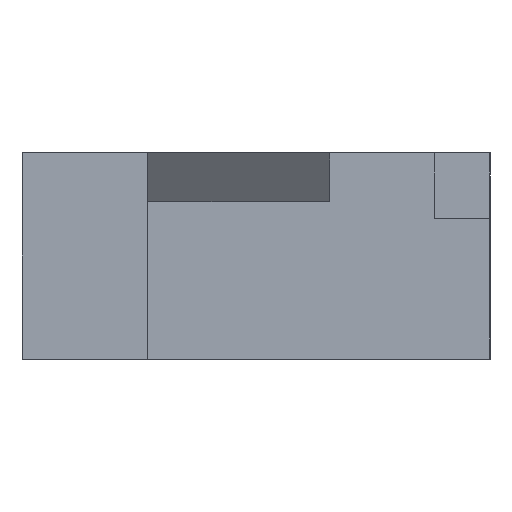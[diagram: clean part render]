
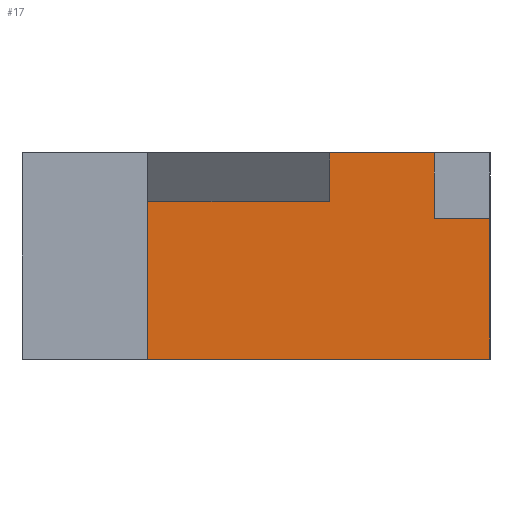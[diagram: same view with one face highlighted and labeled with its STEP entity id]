
A CAD part, left-side view. The second image highlights one B-rep face of the part: STEP entity #17.
In plain terms, the highlighted planar face has unit normal (-1, 0, 0).
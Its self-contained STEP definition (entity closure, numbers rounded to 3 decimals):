
#17 = ADVANCED_FACE('f000',(#18),#32,.F.);
#18 = FACE_BOUND('',#19,.F.);
#19 = EDGE_LOOP('',(#20,#55,#83,#111,#139,#167,#195,#223));
#20 = ORIENTED_EDGE('',*,*,#21,.F.);
#21 = EDGE_CURVE('',#22,#24,#26,.T.);
#22 = VERTEX_POINT('',#23);
#23 = CARTESIAN_POINT('',(0.,2.749,10.197));
#24 = VERTEX_POINT('',#25);
#25 = CARTESIAN_POINT('',(0.,7.929,10.197));
#26 = SURFACE_CURVE('',#27,(#31,#43),.PCURVE_S1.);
#27 = LINE('',#28,#29);
#28 = CARTESIAN_POINT('',(0.,0.,10.197));
#29 = VECTOR('',#30,1.);
#30 = DIRECTION('',(-0.,1.,0.));
#31 = PCURVE('',#32,#37);
#32 = PLANE('',#33);
#33 = AXIS2_PLACEMENT_3D('',#34,#35,#36);
#34 = CARTESIAN_POINT('',(0.,0.,0.));
#35 = DIRECTION('',(1.,0.,-0.));
#36 = DIRECTION('',(0.,0.,1.));
#37 = DEFINITIONAL_REPRESENTATION('',(#38),#42);
#38 = LINE('',#39,#40);
#39 = CARTESIAN_POINT('',(10.197,0.));
#40 = VECTOR('',#41,1.);
#41 = DIRECTION('',(0.,-1.));
#42 = ( GEOMETRIC_REPRESENTATION_CONTEXT(2) 
PARAMETRIC_REPRESENTATION_CONTEXT() REPRESENTATION_CONTEXT('2D SPACE',''
  ) );
#43 = PCURVE('',#44,#49);
#44 = PLANE('',#45);
#45 = AXIS2_PLACEMENT_3D('',#46,#47,#48);
#46 = CARTESIAN_POINT('',(0.,0.,10.197));
#47 = DIRECTION('',(0.,0.,1.));
#48 = DIRECTION('',(1.,0.,-0.));
#49 = DEFINITIONAL_REPRESENTATION('',(#50),#54);
#50 = LINE('',#51,#52);
#51 = CARTESIAN_POINT('',(0.,0.));
#52 = VECTOR('',#53,1.);
#53 = DIRECTION('',(0.,1.));
#54 = ( GEOMETRIC_REPRESENTATION_CONTEXT(2) 
PARAMETRIC_REPRESENTATION_CONTEXT() REPRESENTATION_CONTEXT('2D SPACE',''
  ) );
#55 = ORIENTED_EDGE('',*,*,#56,.T.);
#56 = EDGE_CURVE('',#22,#57,#59,.T.);
#57 = VERTEX_POINT('',#58);
#58 = CARTESIAN_POINT('',(0.,2.749,6.963));
#59 = SURFACE_CURVE('',#60,(#64,#71),.PCURVE_S1.);
#60 = LINE('',#61,#62);
#61 = CARTESIAN_POINT('',(0.,2.749,10.197));
#62 = VECTOR('',#63,1.);
#63 = DIRECTION('',(0.,0.,-1.));
#64 = PCURVE('',#32,#65);
#65 = DEFINITIONAL_REPRESENTATION('',(#66),#70);
#66 = LINE('',#67,#68);
#67 = CARTESIAN_POINT('',(10.197,-2.749));
#68 = VECTOR('',#69,1.);
#69 = DIRECTION('',(-1.,0.));
#70 = ( GEOMETRIC_REPRESENTATION_CONTEXT(2) 
PARAMETRIC_REPRESENTATION_CONTEXT() REPRESENTATION_CONTEXT('2D SPACE',''
  ) );
#71 = PCURVE('',#72,#77);
#72 = PLANE('',#73);
#73 = AXIS2_PLACEMENT_3D('',#74,#75,#76);
#74 = CARTESIAN_POINT('',(0.,2.749,10.197));
#75 = DIRECTION('',(0.,1.,0.));
#76 = DIRECTION('',(0.,0.,-1.));
#77 = DEFINITIONAL_REPRESENTATION('',(#78),#82);
#78 = LINE('',#79,#80);
#79 = CARTESIAN_POINT('',(0.,0.));
#80 = VECTOR('',#81,1.);
#81 = DIRECTION('',(1.,0.));
#82 = ( GEOMETRIC_REPRESENTATION_CONTEXT(2) 
PARAMETRIC_REPRESENTATION_CONTEXT() REPRESENTATION_CONTEXT('2D SPACE',''
  ) );
#83 = ORIENTED_EDGE('',*,*,#84,.T.);
#84 = EDGE_CURVE('',#57,#85,#87,.T.);
#85 = VERTEX_POINT('',#86);
#86 = CARTESIAN_POINT('',(0.,0.,6.963));
#87 = SURFACE_CURVE('',#88,(#92,#99),.PCURVE_S1.);
#88 = LINE('',#89,#90);
#89 = CARTESIAN_POINT('',(0.,2.749,6.963));
#90 = VECTOR('',#91,1.);
#91 = DIRECTION('',(0.,-1.,0.));
#92 = PCURVE('',#32,#93);
#93 = DEFINITIONAL_REPRESENTATION('',(#94),#98);
#94 = LINE('',#95,#96);
#95 = CARTESIAN_POINT('',(6.963,-2.749));
#96 = VECTOR('',#97,1.);
#97 = DIRECTION('',(0.,1.));
#98 = ( GEOMETRIC_REPRESENTATION_CONTEXT(2) 
PARAMETRIC_REPRESENTATION_CONTEXT() REPRESENTATION_CONTEXT('2D SPACE',''
  ) );
#99 = PCURVE('',#100,#105);
#100 = PLANE('',#101);
#101 = AXIS2_PLACEMENT_3D('',#102,#103,#104);
#102 = CARTESIAN_POINT('',(0.,2.749,6.963));
#103 = DIRECTION('',(0.,-0.,-1.));
#104 = DIRECTION('',(0.,-1.,0.));
#105 = DEFINITIONAL_REPRESENTATION('',(#106),#110);
#106 = LINE('',#107,#108);
#107 = CARTESIAN_POINT('',(0.,0.));
#108 = VECTOR('',#109,1.);
#109 = DIRECTION('',(1.,0.));
#110 = ( GEOMETRIC_REPRESENTATION_CONTEXT(2) 
PARAMETRIC_REPRESENTATION_CONTEXT() REPRESENTATION_CONTEXT('2D SPACE',''
  ) );
#111 = ORIENTED_EDGE('',*,*,#112,.F.);
#112 = EDGE_CURVE('',#113,#85,#115,.T.);
#113 = VERTEX_POINT('',#114);
#114 = CARTESIAN_POINT('',(0.,0.,0.));
#115 = SURFACE_CURVE('',#116,(#120,#127),.PCURVE_S1.);
#116 = LINE('',#117,#118);
#117 = CARTESIAN_POINT('',(0.,0.,0.));
#118 = VECTOR('',#119,1.);
#119 = DIRECTION('',(0.,0.,1.));
#120 = PCURVE('',#32,#121);
#121 = DEFINITIONAL_REPRESENTATION('',(#122),#126);
#122 = LINE('',#123,#124);
#123 = CARTESIAN_POINT('',(0.,0.));
#124 = VECTOR('',#125,1.);
#125 = DIRECTION('',(1.,0.));
#126 = ( GEOMETRIC_REPRESENTATION_CONTEXT(2) 
PARAMETRIC_REPRESENTATION_CONTEXT() REPRESENTATION_CONTEXT('2D SPACE',''
  ) );
#127 = PCURVE('',#128,#133);
#128 = PLANE('',#129);
#129 = AXIS2_PLACEMENT_3D('',#130,#131,#132);
#130 = CARTESIAN_POINT('',(0.,0.,0.));
#131 = DIRECTION('',(-0.,1.,0.));
#132 = DIRECTION('',(0.,0.,1.));
#133 = DEFINITIONAL_REPRESENTATION('',(#134),#138);
#134 = LINE('',#135,#136);
#135 = CARTESIAN_POINT('',(0.,0.));
#136 = VECTOR('',#137,1.);
#137 = DIRECTION('',(1.,0.));
#138 = ( GEOMETRIC_REPRESENTATION_CONTEXT(2) 
PARAMETRIC_REPRESENTATION_CONTEXT() REPRESENTATION_CONTEXT('2D SPACE',''
  ) );
#139 = ORIENTED_EDGE('',*,*,#140,.T.);
#140 = EDGE_CURVE('',#113,#141,#143,.T.);
#141 = VERTEX_POINT('',#142);
#142 = CARTESIAN_POINT('',(0.,16.926,0.));
#143 = SURFACE_CURVE('',#144,(#148,#155),.PCURVE_S1.);
#144 = LINE('',#145,#146);
#145 = CARTESIAN_POINT('',(0.,0.,0.));
#146 = VECTOR('',#147,1.);
#147 = DIRECTION('',(-0.,1.,0.));
#148 = PCURVE('',#32,#149);
#149 = DEFINITIONAL_REPRESENTATION('',(#150),#154);
#150 = LINE('',#151,#152);
#151 = CARTESIAN_POINT('',(0.,0.));
#152 = VECTOR('',#153,1.);
#153 = DIRECTION('',(0.,-1.));
#154 = ( GEOMETRIC_REPRESENTATION_CONTEXT(2) 
PARAMETRIC_REPRESENTATION_CONTEXT() REPRESENTATION_CONTEXT('2D SPACE',''
  ) );
#155 = PCURVE('',#156,#161);
#156 = PLANE('',#157);
#157 = AXIS2_PLACEMENT_3D('',#158,#159,#160);
#158 = CARTESIAN_POINT('',(0.,0.,0.));
#159 = DIRECTION('',(0.,0.,1.));
#160 = DIRECTION('',(1.,0.,-0.));
#161 = DEFINITIONAL_REPRESENTATION('',(#162),#166);
#162 = LINE('',#163,#164);
#163 = CARTESIAN_POINT('',(0.,0.));
#164 = VECTOR('',#165,1.);
#165 = DIRECTION('',(0.,1.));
#166 = ( GEOMETRIC_REPRESENTATION_CONTEXT(2) 
PARAMETRIC_REPRESENTATION_CONTEXT() REPRESENTATION_CONTEXT('2D SPACE',''
  ) );
#167 = ORIENTED_EDGE('',*,*,#168,.T.);
#168 = EDGE_CURVE('',#141,#169,#171,.T.);
#169 = VERTEX_POINT('',#170);
#170 = CARTESIAN_POINT('',(0.,16.926,7.776));
#171 = SURFACE_CURVE('',#172,(#176,#183),.PCURVE_S1.);
#172 = LINE('',#173,#174);
#173 = CARTESIAN_POINT('',(0.,16.926,0.));
#174 = VECTOR('',#175,1.);
#175 = DIRECTION('',(0.,0.,1.));
#176 = PCURVE('',#32,#177);
#177 = DEFINITIONAL_REPRESENTATION('',(#178),#182);
#178 = LINE('',#179,#180);
#179 = CARTESIAN_POINT('',(0.,-16.926));
#180 = VECTOR('',#181,1.);
#181 = DIRECTION('',(1.,0.));
#182 = ( GEOMETRIC_REPRESENTATION_CONTEXT(2) 
PARAMETRIC_REPRESENTATION_CONTEXT() REPRESENTATION_CONTEXT('2D SPACE',''
  ) );
#183 = PCURVE('',#184,#189);
#184 = PLANE('',#185);
#185 = AXIS2_PLACEMENT_3D('',#186,#187,#188);
#186 = CARTESIAN_POINT('',(5.78,16.926,5.099
    ));
#187 = DIRECTION('',(0.,1.,0.));
#188 = DIRECTION('',(0.,-0.,1.));
#189 = DEFINITIONAL_REPRESENTATION('',(#190),#194);
#190 = LINE('',#191,#192);
#191 = CARTESIAN_POINT('',(-5.099,-5.78));
#192 = VECTOR('',#193,1.);
#193 = DIRECTION('',(1.,0.));
#194 = ( GEOMETRIC_REPRESENTATION_CONTEXT(2) 
PARAMETRIC_REPRESENTATION_CONTEXT() REPRESENTATION_CONTEXT('2D SPACE',''
  ) );
#195 = ORIENTED_EDGE('',*,*,#196,.T.);
#196 = EDGE_CURVE('',#169,#197,#199,.T.);
#197 = VERTEX_POINT('',#198);
#198 = CARTESIAN_POINT('',(0.,7.929,7.776));
#199 = SURFACE_CURVE('',#200,(#204,#211),.PCURVE_S1.);
#200 = LINE('',#201,#202);
#201 = CARTESIAN_POINT('',(0.,16.926,7.776));
#202 = VECTOR('',#203,1.);
#203 = DIRECTION('',(0.,-1.,0.));
#204 = PCURVE('',#32,#205);
#205 = DEFINITIONAL_REPRESENTATION('',(#206),#210);
#206 = LINE('',#207,#208);
#207 = CARTESIAN_POINT('',(7.776,-16.926));
#208 = VECTOR('',#209,1.);
#209 = DIRECTION('',(0.,1.));
#210 = ( GEOMETRIC_REPRESENTATION_CONTEXT(2) 
PARAMETRIC_REPRESENTATION_CONTEXT() REPRESENTATION_CONTEXT('2D SPACE',''
  ) );
#211 = PCURVE('',#212,#217);
#212 = PLANE('',#213);
#213 = AXIS2_PLACEMENT_3D('',#214,#215,#216);
#214 = CARTESIAN_POINT('',(3.43,13.786,7.776
    ));
#215 = DIRECTION('',(0.,0.,1.));
#216 = DIRECTION('',(0.,1.,0.));
#217 = DEFINITIONAL_REPRESENTATION('',(#218),#222);
#218 = LINE('',#219,#220);
#219 = CARTESIAN_POINT('',(3.14,3.43));
#220 = VECTOR('',#221,1.);
#221 = DIRECTION('',(-1.,0.));
#222 = ( GEOMETRIC_REPRESENTATION_CONTEXT(2) 
PARAMETRIC_REPRESENTATION_CONTEXT() REPRESENTATION_CONTEXT('2D SPACE',''
  ) );
#223 = ORIENTED_EDGE('',*,*,#224,.F.);
#224 = EDGE_CURVE('',#24,#197,#225,.T.);
#225 = SURFACE_CURVE('',#226,(#230,#237),.PCURVE_S1.);
#226 = LINE('',#227,#228);
#227 = CARTESIAN_POINT('',(0.,7.929,10.197));
#228 = VECTOR('',#229,1.);
#229 = DIRECTION('',(-0.,-0.,-1.));
#230 = PCURVE('',#32,#231);
#231 = DEFINITIONAL_REPRESENTATION('',(#232),#236);
#232 = LINE('',#233,#234);
#233 = CARTESIAN_POINT('',(10.197,-7.929));
#234 = VECTOR('',#235,1.);
#235 = DIRECTION('',(-1.,0.));
#236 = ( GEOMETRIC_REPRESENTATION_CONTEXT(2) 
PARAMETRIC_REPRESENTATION_CONTEXT() REPRESENTATION_CONTEXT('2D SPACE',''
  ) );
#237 = PCURVE('',#238,#243);
#238 = PLANE('',#239);
#239 = AXIS2_PLACEMENT_3D('',#240,#241,#242);
#240 = CARTESIAN_POINT('',(0.,7.929,10.197));
#241 = DIRECTION('',(0.685,-0.729,0.));
#242 = DIRECTION('',(0.729,0.685,0.));
#243 = DEFINITIONAL_REPRESENTATION('',(#244),#248);
#244 = LINE('',#245,#246);
#245 = CARTESIAN_POINT('',(0.,0.));
#246 = VECTOR('',#247,1.);
#247 = DIRECTION('',(0.,-1.));
#248 = ( GEOMETRIC_REPRESENTATION_CONTEXT(2) 
PARAMETRIC_REPRESENTATION_CONTEXT() REPRESENTATION_CONTEXT('2D SPACE',''
  ) );
